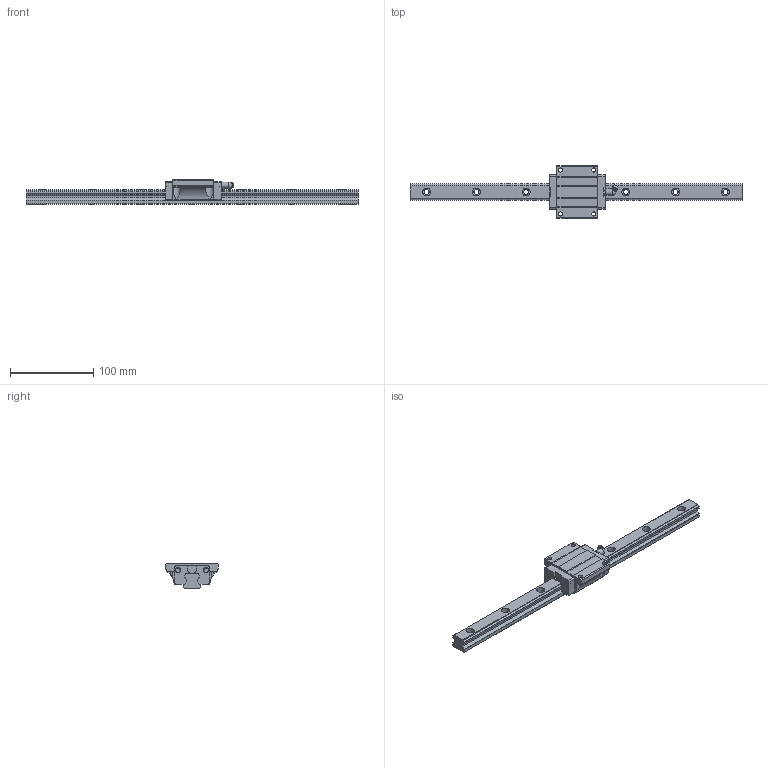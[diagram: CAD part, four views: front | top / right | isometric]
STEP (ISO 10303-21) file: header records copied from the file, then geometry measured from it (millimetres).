
FILE_DESCRIPTION((''),'2;1');
FILE_NAME('C:\Documents and Settings\土屋\My Documents\土屋移動用フォルダ\製品 (図面)\カタログ用3D\リニアガイド\LGH関連\LGH20F.stp','2012-12-13T10:29:18',('y'),(''),'Autodesk Inventor 11','Autodesk Inventor 11','');
FILE_SCHEMA(('AUTOMOTIVE_DESIGN { 1 0 10303 214 1 1 1 1 }'));
Length unit declared in the file: millimetre
Products named in the file (3): LGH20F(1); LGH20レール1; LGH20F(2)
Assembly tree (2 placements, depth 2):
  LGH20F(1)
    LGH20レール1
    LGH20F(2)
Bounding box: 400 x 63 x 30 mm (x, y, z)
Volume: 180444 mm3; surface area: 50144.7 mm2
Topology: 2 solids, 2 shells, 188 faces, 506 edges, 335 vertices
Faces by surface type: plane 90, cylinder 48, bspline 45, sphere 3, cone 2
Full cylindrical faces by diameter (mm): 4.917 x2, 5.5 x2, 6.5 x2, 7 x1, 7.7 x1
Entity records: 6467 total; most frequent: CARTESIAN_POINT 1819, ORIENTED_EDGE 934, DIRECTION 906, EDGE_CURVE 467, VERTEX_POINT 333, AXIS2_PLACEMENT_3D 303, VECTOR 300, LINE 300
